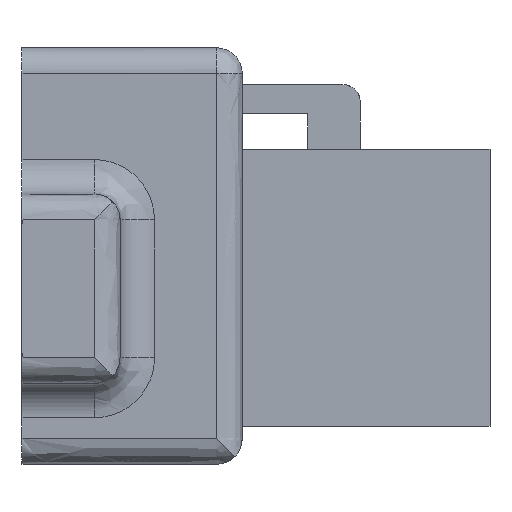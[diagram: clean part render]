
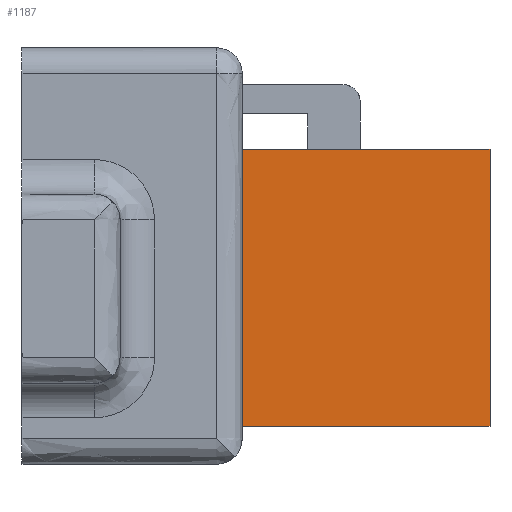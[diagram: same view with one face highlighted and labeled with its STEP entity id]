
A CAD part, front view. The second image highlights one B-rep face of the part: STEP entity #1187.
In plain terms, the highlighted free-form (B-spline) face has degree [1, 1] with [2, 2] control points.
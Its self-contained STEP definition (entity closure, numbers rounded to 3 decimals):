
#1089=CARTESIAN_POINT('',(27.2,-7.25,2.2));
#1090=VERTEX_POINT('',#1089);
#1111=CARTESIAN_POINT('',(27.2,-7.25,18.3));
#1112=VERTEX_POINT('',#1111);
#1122=CARTESIAN_POINT('',(27.2,-7.25,2.2));
#1123=CARTESIAN_POINT('',(27.2,-7.25,5.42));
#1124=CARTESIAN_POINT('',(27.2,-7.25,8.64));
#1125=CARTESIAN_POINT('',(27.2,-7.25,11.86));
#1126=CARTESIAN_POINT('',(27.2,-7.25,15.08));
#1127=CARTESIAN_POINT('',(27.2,-7.25,18.3));
#1128=B_SPLINE_CURVE_WITH_KNOTS('',5,(#1122,#1123,#1124,#1125,#1126,#1127),.UNSPECIFIED.,.F.,.U.,(6,6),(0.,16.1),.UNSPECIFIED.);
#1129=EDGE_CURVE('',#1090,#1112,#1128,.T.);
#1148=CARTESIAN_POINT('',(12.8,-7.25,2.2));
#1149=CARTESIAN_POINT('',(12.8,-7.25,18.3));
#1150=CARTESIAN_POINT('',(27.2,-7.25,2.2));
#1151=CARTESIAN_POINT('',(27.2,-7.25,18.3));
#1152=B_SPLINE_SURFACE_WITH_KNOTS('',1,1,((#1148,#1149),(#1150,#1151)),.PLANE_SURF.,.F.,.F.,.U.,(2,2),(2,2),(0.,1.),(0.,1.118),.UNSPECIFIED.);
#1153=CARTESIAN_POINT('',(12.8,-7.25,2.2));
#1154=VERTEX_POINT('',#1153);
#1155=CARTESIAN_POINT('',(27.2,-7.25,2.2));
#1156=CARTESIAN_POINT('',(24.32,-7.25,2.2));
#1157=CARTESIAN_POINT('',(21.44,-7.25,2.2));
#1158=CARTESIAN_POINT('',(18.56,-7.25,2.2));
#1159=CARTESIAN_POINT('',(15.68,-7.25,2.2));
#1160=CARTESIAN_POINT('',(12.8,-7.25,2.2));
#1161=B_SPLINE_CURVE_WITH_KNOTS('',5,(#1155,#1156,#1157,#1158,#1159,#1160),.UNSPECIFIED.,.F.,.U.,(6,6),(0.,14.4),.UNSPECIFIED.);
#1162=EDGE_CURVE('',#1090,#1154,#1161,.T.);
#1163=ORIENTED_EDGE('',*,*,#1162,.F.);
#1164=ORIENTED_EDGE('',*,*,#1129,.T.);
#1165=CARTESIAN_POINT('',(12.8,-7.25,18.3));
#1166=VERTEX_POINT('',#1165);
#1167=CARTESIAN_POINT('',(12.8,-7.25,18.3));
#1168=CARTESIAN_POINT('',(15.68,-7.25,18.3));
#1169=CARTESIAN_POINT('',(18.56,-7.25,18.3));
#1170=CARTESIAN_POINT('',(21.44,-7.25,18.3));
#1171=CARTESIAN_POINT('',(24.32,-7.25,18.3));
#1172=CARTESIAN_POINT('',(27.2,-7.25,18.3));
#1173=B_SPLINE_CURVE_WITH_KNOTS('',5,(#1167,#1168,#1169,#1170,#1171,#1172),.UNSPECIFIED.,.F.,.U.,(6,6),(0.,14.4),.UNSPECIFIED.);
#1174=EDGE_CURVE('',#1166,#1112,#1173,.T.);
#1175=ORIENTED_EDGE('',*,*,#1174,.F.);
#1176=CARTESIAN_POINT('',(12.8,-7.25,2.2));
#1177=CARTESIAN_POINT('',(12.8,-7.25,5.42));
#1178=CARTESIAN_POINT('',(12.8,-7.25,8.64));
#1179=CARTESIAN_POINT('',(12.8,-7.25,11.86));
#1180=CARTESIAN_POINT('',(12.8,-7.25,15.08));
#1181=CARTESIAN_POINT('',(12.8,-7.25,18.3));
#1182=B_SPLINE_CURVE_WITH_KNOTS('',5,(#1176,#1177,#1178,#1179,#1180,#1181),.UNSPECIFIED.,.F.,.U.,(6,6),(0.,16.1),.UNSPECIFIED.);
#1183=EDGE_CURVE('',#1154,#1166,#1182,.T.);
#1184=ORIENTED_EDGE('',*,*,#1183,.F.);
#1185=EDGE_LOOP('',(#1163,#1164,#1175,#1184));
#1186=FACE_OUTER_BOUND('',#1185,.T.);
#1187=ADVANCED_FACE('',(#1186),#1152,.T.);
